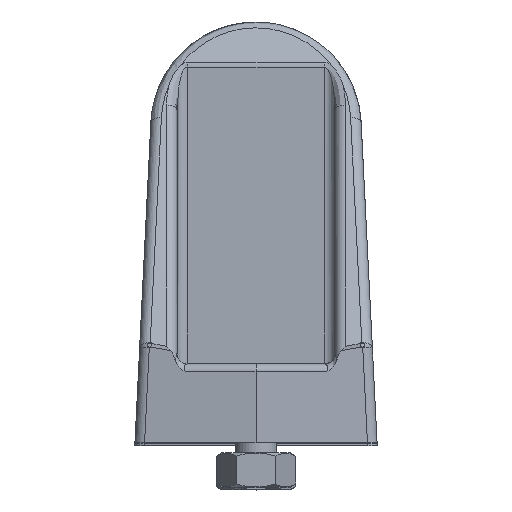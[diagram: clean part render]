
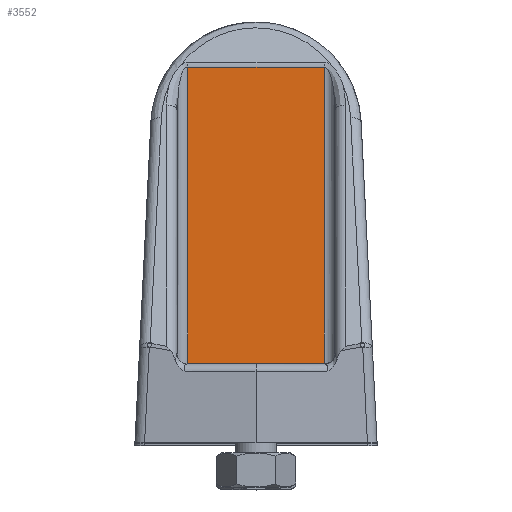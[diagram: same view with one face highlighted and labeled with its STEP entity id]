
A CAD part, top view. The second image highlights one B-rep face of the part: STEP entity #3552.
In plain terms, the highlighted planar face has unit normal (0, 0, 1) as drawn and (0, 0, -1) by its records, which use the part's own axes.
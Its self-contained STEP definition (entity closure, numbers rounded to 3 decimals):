
#1021=CARTESIAN_POINT('',(-13.,71.409,9.));
#1058=DIRECTION('',(0.,1.,0.));
#1059=VECTOR('',#1058,56.409);
#1060=CARTESIAN_POINT('',(-13.,15.,9.));
#1061=LINE('',#1060,#1059);
#1065=DIRECTION('',(1.,0.,0.));
#1066=VECTOR('',#1065,26.);
#1067=CARTESIAN_POINT('',(-13.,15.,9.));
#1068=LINE('',#1067,#1066);
#1072=DIRECTION('',(1.,0.,0.));
#1073=VECTOR('',#1072,26.);
#1074=CARTESIAN_POINT('',(-13.,71.409,9.));
#1075=LINE('',#1074,#1073);
#1116=DIRECTION('',(0.,-1.,0.));
#1117=VECTOR('',#1116,56.409);
#1118=CARTESIAN_POINT('',(13.,71.409,9.));
#1119=LINE('',#1118,#1117);
#2262=CARTESIAN_POINT('',(13.,15.,9.));
#2263=VERTEX_POINT('',#2262);
#2264=CARTESIAN_POINT('',(-13.,15.,9.));
#2265=VERTEX_POINT('',#2264);
#2307=CARTESIAN_POINT('',(13.,71.409,9.));
#2308=VERTEX_POINT('',#2307);
#2316=VERTEX_POINT('',#1021);
#3539=CARTESIAN_POINT('',(0.,0.,9.));
#3540=DIRECTION('',(0.,0.,-1.));
#3541=DIRECTION('',(-1.,0.,0.));
#3542=AXIS2_PLACEMENT_3D('',#3539,#3540,#3541);
#3543=PLANE('',#3542);
#3545=ORIENTED_EDGE('',*,*,#3544,.F.);
#3546=ORIENTED_EDGE('',*,*,#3534,.F.);
#3547=ORIENTED_EDGE('',*,*,#2743,.T.);
#3549=ORIENTED_EDGE('',*,*,#3548,.F.);
#3550=EDGE_LOOP('',(#3545,#3546,#3547,#3549));
#3551=FACE_OUTER_BOUND('',#3550,.F.);
#2743=EDGE_CURVE('',#2265,#2263,#1068,.T.);
#3534=EDGE_CURVE('',#2265,#2316,#1061,.T.);
#3544=EDGE_CURVE('',#2316,#2308,#1075,.T.);
#3548=EDGE_CURVE('',#2308,#2263,#1119,.T.);
#3552=ADVANCED_FACE('',(#3551),#3543,.T.);
